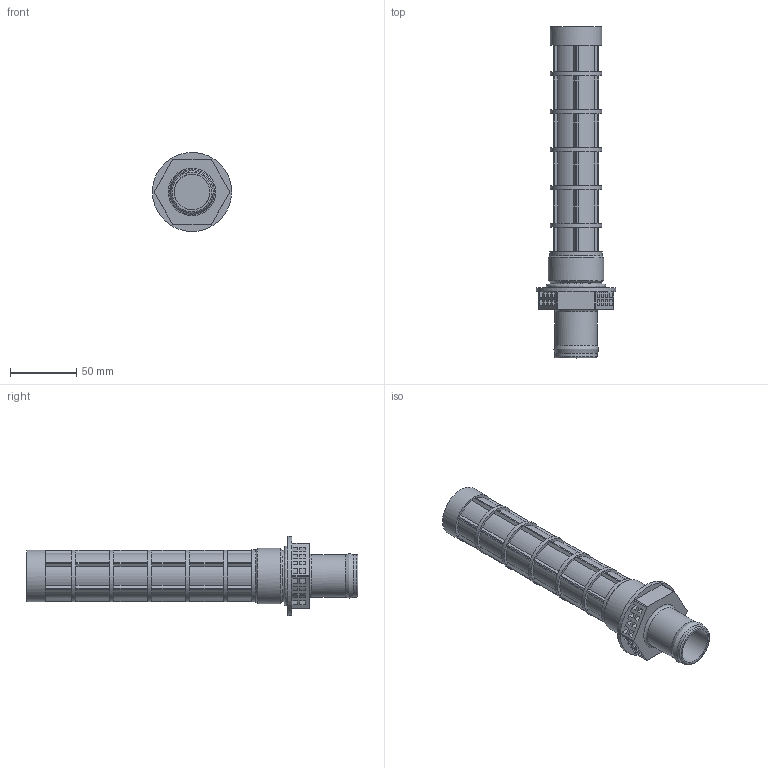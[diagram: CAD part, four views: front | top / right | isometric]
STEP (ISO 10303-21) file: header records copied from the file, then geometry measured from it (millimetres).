
FILE_DESCRIPTION((''),'2;1');
FILE_NAME('U:\Users\t.schleuter\Siebelement15229400(288260).stp', '2013-04-15T09:43:22',('User'),('SDRC'),'I-DEAS Master Series 9','UNIX', 'Yes');
FILE_SCHEMA(('AUTOMOTIVE_DESIGN { 1 0 10303 214 1 1 1 1 }'));
Length unit declared in the file: millimetre
Products named in the file (1): 15229400(288260)
Bounding box: 59.99 x 251.44 x 59.89 mm (x, y, z)
Volume: 250463 mm3; surface area: 49322.8 mm2
Topology: 12 solids, 12 shells, 654 faces, 1686 edges, 1077 vertices
Faces by surface type: bspline 654
Entity records: 18756 total; most frequent: CARTESIAN_POINT 8623, ORIENTED_EDGE 3372, EDGE_CURVE 1686, VERTEX_POINT 1077, B_SPLINE_CURVE_WITH_KNOTS 795, EDGE_LOOP 683, FACE_OUTER_BOUND 654, ADVANCED_FACE 654
